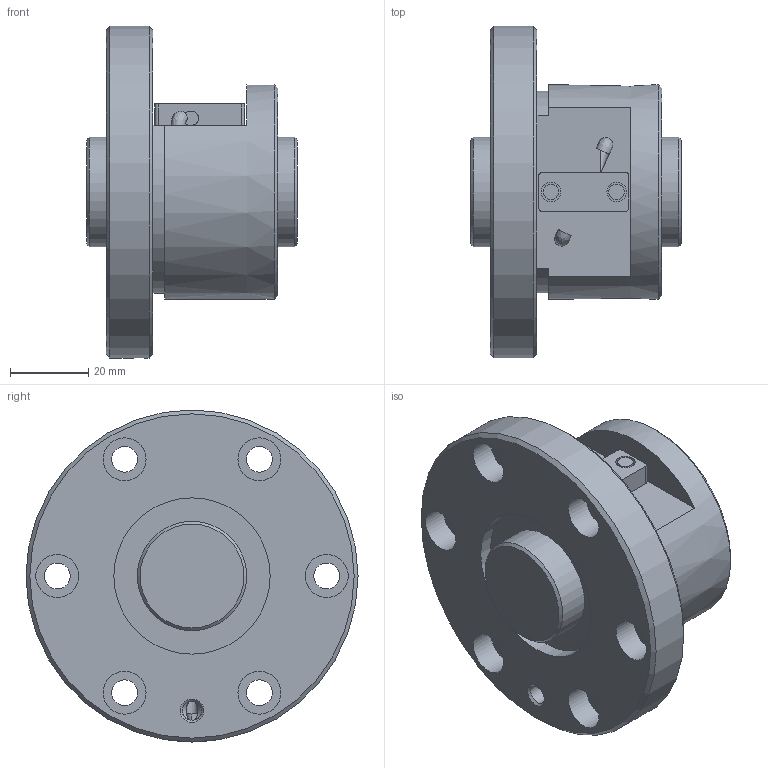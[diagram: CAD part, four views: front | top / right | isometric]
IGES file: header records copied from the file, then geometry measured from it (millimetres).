
Start section: Data from Parasolid IGES Translator 26.0.171, Copyright(c) 2006 Siemens PLM Software. All Rights Reserved.
Global section: file name: BNF2805V-2.5RRG1+54LC0_000_rev.igs; native system: By Siemens PLM Incorporated; preprocessor: XPlus GENERIC/IGES 26.0.171; author: Noname; organization: Noname; date: 20240806.072947; units: millimetre
Bounding box: 54 x 85 x 85 mm (x, y, z)
Surface area: 31901.1 mm2 (no closed solid volume)
Topology: 0 solids, 0 shells, 72 faces, 316 edges, 272 vertices
Faces by surface type: revolution 45, extrusion 27
